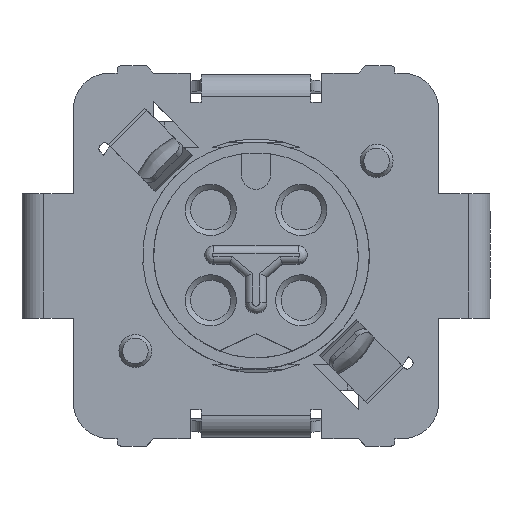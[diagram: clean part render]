
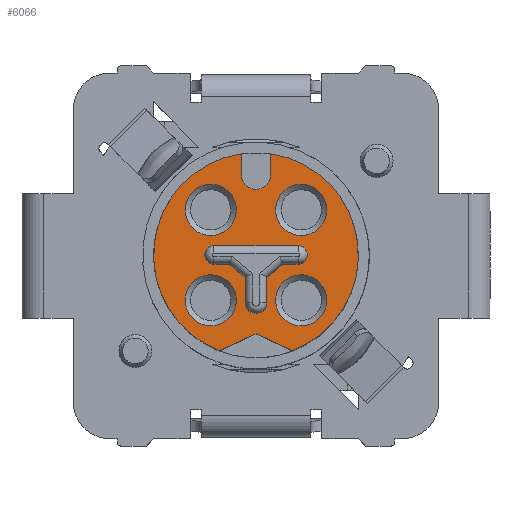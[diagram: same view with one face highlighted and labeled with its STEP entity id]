
A CAD part, top view. The second image highlights one B-rep face of the part: STEP entity #6066.
In plain terms, the highlighted planar face has unit normal (0, 0, 1).
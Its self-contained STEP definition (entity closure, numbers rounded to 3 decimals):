
#94=FACE_BOUND('',#963,.T.);
#95=FACE_BOUND('',#964,.T.);
#96=FACE_BOUND('',#965,.T.);
#97=FACE_BOUND('',#966,.T.);
#98=FACE_BOUND('',#967,.T.);
#385=CIRCLE('',#6445,0.3);
#389=CIRCLE('',#6456,0.4);
#390=CIRCLE('',#6459,2.8);
#391=CIRCLE('',#6460,2.8);
#392=CIRCLE('',#6461,0.7);
#393=CIRCLE('',#6462,0.7);
#394=CIRCLE('',#6463,0.7);
#395=CIRCLE('',#6464,0.7);
#396=CIRCLE('',#6465,0.25);
#397=CIRCLE('',#6466,0.25);
#621=FACE_OUTER_BOUND('',#962,.T.);
#962=EDGE_LOOP('',(#4395,#4396,#4397,#4398,#4399,#4400,#4401));
#963=EDGE_LOOP('',(#4402));
#964=EDGE_LOOP('',(#4403));
#965=EDGE_LOOP('',(#4404));
#966=EDGE_LOOP('',(#4405));
#967=EDGE_LOOP('',(#4406,#4407,#4408,#4409,#4410,#4411,#4412,#4413,#4414,
#4415));
#1441=LINE('',#9088,#2092);
#1445=LINE('',#9097,#2096);
#1463=LINE('',#9207,#2114);
#1466=LINE('',#9212,#2117);
#1469=LINE('',#9220,#2120);
#1471=LINE('',#9224,#2122);
#1473=LINE('',#9230,#2124);
#1477=LINE('',#9246,#2128);
#1479=LINE('',#9260,#2130);
#1480=LINE('',#9264,#2131);
#1481=LINE('',#9267,#2132);
#2092=VECTOR('',#7229,0.571);
#2096=VECTOR('',#7235,1.102);
#2114=VECTOR('',#7301,0.555);
#2117=VECTOR('',#7306,0.693);
#2120=VECTOR('',#7315,0.693);
#2122=VECTOR('',#7319,0.555);
#2124=VECTOR('',#7325,1.102);
#2128=VECTOR('',#7345,0.571);
#2130=VECTOR('',#7361,0.425);
#2131=VECTOR('',#7364,2.3);
#2132=VECTOR('',#7367,0.425);
#2743=VERTEX_POINT('',#9084);
#2745=VERTEX_POINT('',#9087);
#2747=VERTEX_POINT('',#9093);
#2749=VERTEX_POINT('',#9096);
#2771=VERTEX_POINT('',#9204);
#2772=VERTEX_POINT('',#9206);
#2773=VERTEX_POINT('',#9210);
#2774=VERTEX_POINT('',#9214);
#2775=VERTEX_POINT('',#9218);
#2776=VERTEX_POINT('',#9222);
#2777=VERTEX_POINT('',#9227);
#2781=VERTEX_POINT('',#9241);
#2782=VERTEX_POINT('',#9245);
#2783=VERTEX_POINT('',#9251);
#2784=VERTEX_POINT('',#9253);
#2785=VERTEX_POINT('',#9255);
#2786=VERTEX_POINT('',#9257);
#2787=VERTEX_POINT('',#9259);
#2788=VERTEX_POINT('',#9261);
#2789=VERTEX_POINT('',#9263);
#2790=VERTEX_POINT('',#9265);
#3352=EDGE_CURVE('',#2745,#2743,#1441,.T.);
#3356=EDGE_CURVE('',#2749,#2747,#1445,.T.);
#3390=EDGE_CURVE('',#2772,#2771,#1463,.T.);
#3393=EDGE_CURVE('',#2771,#2773,#1466,.T.);
#3395=EDGE_CURVE('',#2773,#2774,#385,.T.);
#3397=EDGE_CURVE('',#2774,#2775,#1469,.T.);
#3399=EDGE_CURVE('',#2775,#2776,#1471,.T.);
#3401=EDGE_CURVE('',#2747,#2777,#1473,.T.);
#3407=EDGE_CURVE('',#2781,#2745,#389,.T.);
#3409=EDGE_CURVE('',#2782,#2781,#1477,.T.);
#3411=EDGE_CURVE('',#2782,#2777,#390,.T.);
#3412=EDGE_CURVE('',#2749,#2743,#391,.T.);
#3413=EDGE_CURVE('',#2783,#2783,#392,.T.);
#3414=EDGE_CURVE('',#2784,#2784,#393,.T.);
#3415=EDGE_CURVE('',#2785,#2785,#394,.T.);
#3416=EDGE_CURVE('',#2786,#2786,#395,.T.);
#3417=EDGE_CURVE('',#2776,#2787,#1479,.T.);
#3418=EDGE_CURVE('',#2787,#2788,#396,.T.);
#3419=EDGE_CURVE('',#2788,#2789,#1480,.T.);
#3420=EDGE_CURVE('',#2789,#2790,#397,.T.);
#3421=EDGE_CURVE('',#2790,#2772,#1481,.T.);
#4395=ORIENTED_EDGE('',*,*,#3356,.T.);
#4396=ORIENTED_EDGE('',*,*,#3401,.T.);
#4397=ORIENTED_EDGE('',*,*,#3411,.F.);
#4398=ORIENTED_EDGE('',*,*,#3409,.T.);
#4399=ORIENTED_EDGE('',*,*,#3407,.T.);
#4400=ORIENTED_EDGE('',*,*,#3352,.T.);
#4401=ORIENTED_EDGE('',*,*,#3412,.F.);
#4402=ORIENTED_EDGE('',*,*,#3413,.T.);
#4403=ORIENTED_EDGE('',*,*,#3414,.T.);
#4404=ORIENTED_EDGE('',*,*,#3415,.T.);
#4405=ORIENTED_EDGE('',*,*,#3416,.T.);
#4406=ORIENTED_EDGE('',*,*,#3417,.T.);
#4407=ORIENTED_EDGE('',*,*,#3418,.T.);
#4408=ORIENTED_EDGE('',*,*,#3419,.T.);
#4409=ORIENTED_EDGE('',*,*,#3420,.T.);
#4410=ORIENTED_EDGE('',*,*,#3421,.T.);
#4411=ORIENTED_EDGE('',*,*,#3390,.T.);
#4412=ORIENTED_EDGE('',*,*,#3393,.T.);
#4413=ORIENTED_EDGE('',*,*,#3395,.T.);
#4414=ORIENTED_EDGE('',*,*,#3397,.T.);
#4415=ORIENTED_EDGE('',*,*,#3399,.T.);
#5835=PLANE('',#6458);
#6066=ADVANCED_FACE('',(#621,#94,#95,#96,#97,#98),#5835,.F.);
#6445=AXIS2_PLACEMENT_3D('',#9216,#7310,#7311);
#6456=AXIS2_PLACEMENT_3D('',#9242,#7340,#7341);
#6458=AXIS2_PLACEMENT_3D('',#9248,#7347,#7348);
#6459=AXIS2_PLACEMENT_3D('',#9249,#7349,#7350);
#6460=AXIS2_PLACEMENT_3D('',#9250,#7351,#7352);
#6461=AXIS2_PLACEMENT_3D('',#9252,#7353,#7354);
#6462=AXIS2_PLACEMENT_3D('',#9254,#7355,#7356);
#6463=AXIS2_PLACEMENT_3D('',#9256,#7357,#7358);
#6464=AXIS2_PLACEMENT_3D('',#9258,#7359,#7360);
#6465=AXIS2_PLACEMENT_3D('',#9262,#7362,#7363);
#6466=AXIS2_PLACEMENT_3D('',#9266,#7365,#7366);
#7229=DIRECTION('',(0.,1.,0.));
#7235=DIRECTION('',(0.906,0.423,0.));
#7301=DIRECTION('',(-0.766,-0.643,0.));
#7306=DIRECTION('',(0.,-1.,0.));
#7310=DIRECTION('center_axis',(0.,0.,
-1.));
#7311=DIRECTION('ref_axis',(-1.,0.,0.));
#7315=DIRECTION('',(0.,1.,0.));
#7319=DIRECTION('',(-0.766,0.643,0.));
#7325=DIRECTION('',(0.906,-0.423,0.));
#7340=DIRECTION('center_axis',(0.,0.,
-1.));
#7341=DIRECTION('ref_axis',(-1.,0.,0.));
#7345=DIRECTION('',(0.,-1.,0.));
#7347=DIRECTION('center_axis',(0.,0.,
-1.));
#7348=DIRECTION('ref_axis',(1.,0.,0.));
#7349=DIRECTION('center_axis',(0.,0.,
-1.));
#7350=DIRECTION('ref_axis',(1.,0.,0.));
#7351=DIRECTION('center_axis',(0.,0.,
-1.));
#7352=DIRECTION('ref_axis',(1.,0.,0.));
#7353=DIRECTION('center_axis',(0.,0.,
-1.));
#7354=DIRECTION('ref_axis',(-1.,0.,0.));
#7355=DIRECTION('center_axis',(0.,0.,
-1.));
#7356=DIRECTION('ref_axis',(-1.,0.,0.));
#7357=DIRECTION('center_axis',(0.,0.,
-1.));
#7358=DIRECTION('ref_axis',(-1.,0.,0.));
#7359=DIRECTION('center_axis',(0.,0.,
-1.));
#7360=DIRECTION('ref_axis',(-1.,0.,0.));
#7361=DIRECTION('',(-1.,0.,0.));
#7362=DIRECTION('center_axis',(0.,0.,
-1.));
#7363=DIRECTION('ref_axis',(0.,1.,0.));
#7364=DIRECTION('',(1.,0.,0.));
#7365=DIRECTION('center_axis',(0.,0.,
-1.));
#7366=DIRECTION('ref_axis',(0.,-1.,0.));
#7367=DIRECTION('',(-1.,0.,0.));
#9084=CARTESIAN_POINT('',(-0.4,2.771,15.3));
#9087=CARTESIAN_POINT('',(-0.4,2.2,15.3));
#9088=CARTESIAN_POINT('',(-0.4,1.537,15.3));
#9093=CARTESIAN_POINT('',(0.,-2.15,15.3));
#9096=CARTESIAN_POINT('',(-0.999,-2.616,15.3));
#9097=CARTESIAN_POINT('',(0.412,-1.958,15.3));
#9204=CARTESIAN_POINT('',(0.3,-0.607,15.3));
#9206=CARTESIAN_POINT('',(0.725,-0.25,15.3));
#9207=CARTESIAN_POINT('',(0.574,-0.377,15.3));
#9210=CARTESIAN_POINT('',(0.3,-1.3,15.3));
#9212=CARTESIAN_POINT('',(0.3,-0.303,15.3));
#9214=CARTESIAN_POINT('',(-0.3,-1.3,15.3));
#9216=CARTESIAN_POINT('Origin',(0.,-1.3,
15.3));
#9218=CARTESIAN_POINT('',(-0.3,-0.607,15.3));
#9220=CARTESIAN_POINT('',(-0.3,-0.303,15.3));
#9222=CARTESIAN_POINT('',(-0.725,-0.25,15.3));
#9224=CARTESIAN_POINT('',(-0.361,-0.555,15.3));
#9227=CARTESIAN_POINT('',(0.999,-2.616,15.3));
#9230=CARTESIAN_POINT('',(0.269,-2.275,15.3));
#9241=CARTESIAN_POINT('',(0.4,2.2,15.3));
#9242=CARTESIAN_POINT('Origin',(0.,2.2,
15.3));
#9245=CARTESIAN_POINT('',(0.4,2.771,15.3));
#9246=CARTESIAN_POINT('',(0.4,1.1,15.3));
#9248=CARTESIAN_POINT('Origin',(0.,0.,
15.3));
#9249=CARTESIAN_POINT('Origin',(0.,0.,
15.3));
#9250=CARTESIAN_POINT('Origin',(0.,0.,
15.3));
#9251=CARTESIAN_POINT('',(0.537,1.237,15.3));
#9252=CARTESIAN_POINT('Origin',(1.237,1.237,15.3));
#9253=CARTESIAN_POINT('',(0.537,-1.237,15.3));
#9254=CARTESIAN_POINT('Origin',(1.237,-1.237,15.3));
#9255=CARTESIAN_POINT('',(-1.937,-1.237,15.3));
#9256=CARTESIAN_POINT('Origin',(-1.237,-1.237,15.3));
#9257=CARTESIAN_POINT('',(-1.937,1.237,15.3));
#9258=CARTESIAN_POINT('Origin',(-1.237,1.237,15.3));
#9259=CARTESIAN_POINT('',(-1.15,-0.25,15.3));
#9260=CARTESIAN_POINT('',(-0.363,-0.25,15.3));
#9261=CARTESIAN_POINT('',(-1.15,0.25,15.3));
#9262=CARTESIAN_POINT('Origin',(-1.15,0.,15.3));
#9263=CARTESIAN_POINT('',(1.15,0.25,15.3));
#9264=CARTESIAN_POINT('',(-0.575,0.25,15.3));
#9265=CARTESIAN_POINT('',(1.15,-0.25,15.3));
#9266=CARTESIAN_POINT('Origin',(1.15,0.,15.3));
#9267=CARTESIAN_POINT('',(0.362,-0.25,15.3));
